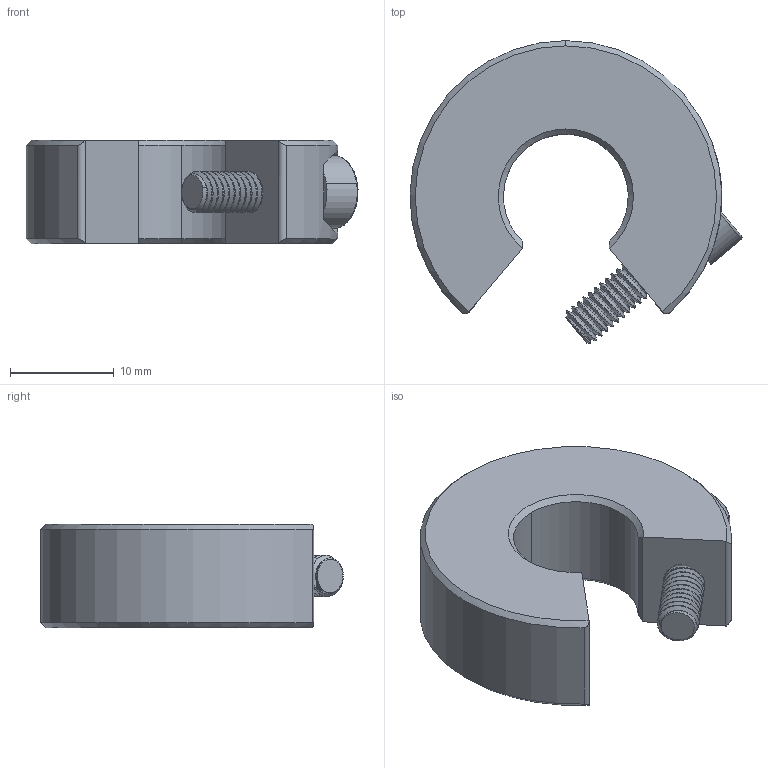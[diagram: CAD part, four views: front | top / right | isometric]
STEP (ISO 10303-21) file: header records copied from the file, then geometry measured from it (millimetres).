
FILE_DESCRIPTION (( 'STEP AP203' ), '1' );
FILE_NAME ('SBR12-FR.STEP', '2025-08-14T09:37:02', ( '' ), ( '' ), 'SwSTEP 2.0', 'SolidWorks 2022', '' );
FILE_SCHEMA (( 'CONFIG_CONTROL_DESIGN' ));
Length unit declared in the file: millimetre
Products named in the file (3): SBR12-FR; Винт DIN912 (полуцилиндр) кл. пр. 8.8_М4х14
Assembly tree (2 placements, depth 2):
  SBR12-FR
    SBR12-FR
    Винт DIN912 (полуцилиндр) кл. пр. 8.8_М4х14
Bounding box: 31.94 x 29.12 x 10 mm (x, y, z)
Volume: 4601.9 mm3; surface area: 2711.7 mm2
Topology: 2 solids, 2 shells, 114 faces, 310 edges, 201 vertices
Faces by surface type: cylinder 70, plane 23, cone 10, bspline 7, torus 4
Entity records: 15107 total; most frequent: CARTESIAN_POINT 12307, ORIENTED_EDGE 616, DIRECTION 428, EDGE_CURVE 308, VERTEX_POINT 201, AXIS2_PLACEMENT_3D 159, EDGE_LOOP 119, ADVANCED_FACE 114
